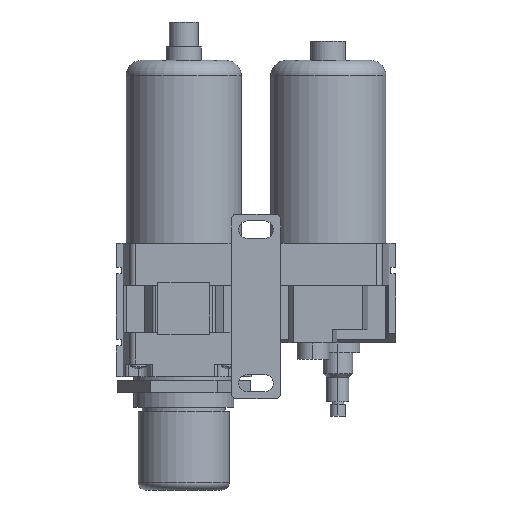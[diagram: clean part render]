
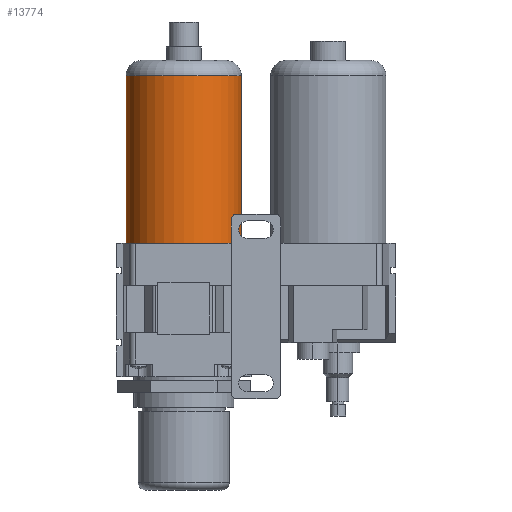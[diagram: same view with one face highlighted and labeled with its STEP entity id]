
A CAD part, front view. The second image highlights one B-rep face of the part: STEP entity #13774.
In plain terms, the highlighted cylindrical face has radius 30 mm (diameter 60 mm), a partial arc.
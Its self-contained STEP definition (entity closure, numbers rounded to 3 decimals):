
#111 = DIRECTION ( 'NONE',  ( 0., 0., 1. ) ) ;
#215 = VECTOR ( 'NONE', #790, 1000. ) ;
#372 = DIRECTION ( 'NONE',  ( -1., 0., 0. ) ) ;
#790 = DIRECTION ( 'NONE',  ( 0., 0., 1. ) ) ;
#860 = LINE ( 'NONE', #6026, #215 ) ;
#1112 = EDGE_CURVE ( 'NONE', #6693, #16288, #12257, .T. ) ;
#1377 = FACE_OUTER_BOUND ( 'NONE', #7259, .T. ) ;
#1525 = CIRCLE ( 'NONE', #5574, 30. ) ;
#2615 = VECTOR ( 'NONE', #13179, 1000. ) ;
#2959 = LINE ( 'NONE', #11998, #2615 ) ;
#3066 = EDGE_CURVE ( 'NONE', #11839, #16288, #2959, .T. ) ;
#3341 = ORIENTED_EDGE ( 'NONE', *, *, #15328, .T. ) ;
#3999 = CYLINDRICAL_SURFACE ( 'NONE', #12513, 30. ) ;
#4285 = CARTESIAN_POINT ( 'NONE',  ( -30., 0., 0. ) ) ;
#5558 = DIRECTION ( 'NONE',  ( 0., 0., -1. ) ) ;
#5574 = AXIS2_PLACEMENT_3D ( 'NONE', #9203, #5558, #6665 ) ;
#6026 = CARTESIAN_POINT ( 'NONE',  ( 30., 0., -500. ) ) ;
#6665 = DIRECTION ( 'NONE',  ( -1., 0., 0. ) ) ;
#6693 = VERTEX_POINT ( 'NONE', #10298 ) ;
#6981 = CARTESIAN_POINT ( 'NONE',  ( 0., 0., 87. ) ) ;
#7083 = CARTESIAN_POINT ( 'NONE',  ( 30., 0., 0. ) ) ;
#7259 = EDGE_LOOP ( 'NONE', ( #10462, #3341, #12794, #11019 ) ) ;
#8849 = CARTESIAN_POINT ( 'NONE',  ( -30., 0., 87. ) ) ;
#9165 = DIRECTION ( 'NONE',  ( -1., 0., 0. ) ) ;
#9203 = CARTESIAN_POINT ( 'NONE',  ( 0., 0., 0. ) ) ;
#10298 = CARTESIAN_POINT ( 'NONE',  ( 30., 0., 87. ) ) ;
#10462 = ORIENTED_EDGE ( 'NONE', *, *, #10800, .F. ) ;
#10627 = AXIS2_PLACEMENT_3D ( 'NONE', #6981, #13130, #372 ) ;
#10800 = EDGE_CURVE ( 'NONE', #12976, #11839, #1525, .T. ) ;
#11019 = ORIENTED_EDGE ( 'NONE', *, *, #3066, .F. ) ;
#11839 = VERTEX_POINT ( 'NONE', #4285 ) ;
#11998 = CARTESIAN_POINT ( 'NONE',  ( -30., 0., -500. ) ) ;
#12257 = CIRCLE ( 'NONE', #10627, 30. ) ;
#12513 = AXIS2_PLACEMENT_3D ( 'NONE', #12874, #111, #9165 ) ;
#12794 = ORIENTED_EDGE ( 'NONE', *, *, #1112, .T. ) ;
#12874 = CARTESIAN_POINT ( 'NONE',  ( 0., 0., -500. ) ) ;
#12976 = VERTEX_POINT ( 'NONE', #7083 ) ;
#13130 = DIRECTION ( 'NONE',  ( 0., 0., -1. ) ) ;
#13179 = DIRECTION ( 'NONE',  ( 0., 0., 1. ) ) ;
#13774 = ADVANCED_FACE ( 'NONE', ( #1377 ), #3999, .T. ) ;
#15328 = EDGE_CURVE ( 'NONE', #12976, #6693, #860, .T. ) ;
#16288 = VERTEX_POINT ( 'NONE', #8849 ) ;
